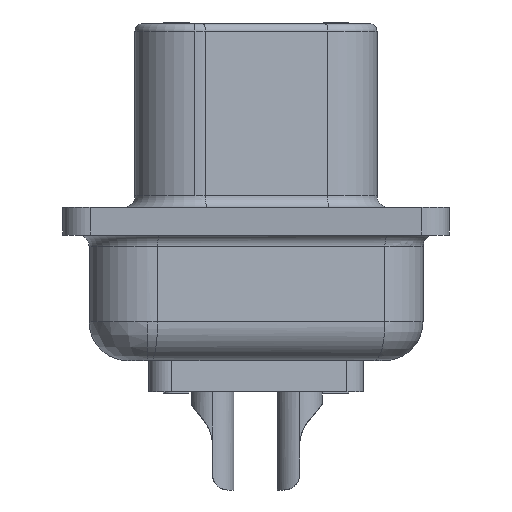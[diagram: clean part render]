
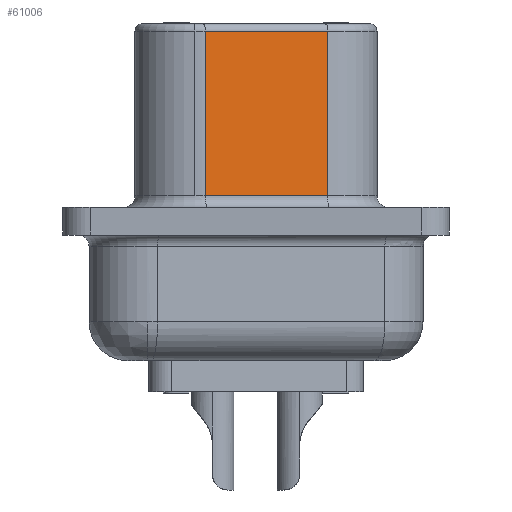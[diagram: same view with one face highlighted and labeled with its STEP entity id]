
A CAD part, left-side view. The second image highlights one B-rep face of the part: STEP entity #61006.
In plain terms, the highlighted planar face has unit normal (-0.985, -0.174, 0).
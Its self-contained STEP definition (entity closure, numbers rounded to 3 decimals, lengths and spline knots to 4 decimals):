
#7222 = VERTEX_POINT('',#7223);
#7223 = CARTESIAN_POINT('',(7.25,7.9546,5.746));
#7238 = CYLINDRICAL_SURFACE('',#7239,1.9558);
#7239 = AXIS2_PLACEMENT_3D('',#7240,#7241,#7242);
#7240 = CARTESIAN_POINT('',(9.1761,8.2942,6.));
#7241 = DIRECTION('',(-0.,-0.,-1.));
#7242 = DIRECTION('',(-1.,0.,0.));
#7265 = CYLINDRICAL_SURFACE('',#7266,0.254);
#7266 = AXIS2_PLACEMENT_3D('',#7267,#7268,#7269);
#7267 = CARTESIAN_POINT('',(8.2034,4.0103,5.746));
#7268 = DIRECTION('',(0.174,-0.985,0.));
#7269 = DIRECTION('',(0.985,0.174,0.));
#7426 = VERTEX_POINT('',#7427);
#7427 = CARTESIAN_POINT('',(7.25,7.9546,0.381));
#7454 = EDGE_CURVE('',#7222,#7426,#7455,.T.);
#7455 = SURFACE_CURVE('',#7456,(#7460,#7467),.PCURVE_S1.);
#7456 = LINE('',#7457,#7458);
#7457 = CARTESIAN_POINT('',(7.25,7.9546,6.));
#7458 = VECTOR('',#7459,1.);
#7459 = DIRECTION('',(-0.,-0.,-1.));
#7460 = PCURVE('',#7238,#7461);
#7461 = DEFINITIONAL_REPRESENTATION('',(#7462),#7466);
#7462 = LINE('',#7463,#7464);
#7463 = CARTESIAN_POINT('',(6.109,0.));
#7464 = VECTOR('',#7465,1.);
#7465 = DIRECTION('',(0.,1.));
#7466 = ( GEOMETRIC_REPRESENTATION_CONTEXT(2) 
PARAMETRIC_REPRESENTATION_CONTEXT() REPRESENTATION_CONTEXT('2D SPACE',''
  ) );
#7467 = PCURVE('',#7468,#7473);
#7468 = PLANE('',#7469);
#7469 = AXIS2_PLACEMENT_3D('',#7470,#7471,#7472);
#7470 = CARTESIAN_POINT('',(7.9533,3.9662,6.));
#7471 = DIRECTION('',(0.985,0.174,-0.));
#7472 = DIRECTION('',(-0.174,0.985,0.));
#7473 = DEFINITIONAL_REPRESENTATION('',(#7474),#7478);
#7474 = LINE('',#7475,#7476);
#7475 = CARTESIAN_POINT('',(4.05,0.));
#7476 = VECTOR('',#7477,1.);
#7477 = DIRECTION('',(0.,-1.));
#7478 = ( GEOMETRIC_REPRESENTATION_CONTEXT(2) 
PARAMETRIC_REPRESENTATION_CONTEXT() REPRESENTATION_CONTEXT('2D SPACE',''
  ) );
#59506 = CYLINDRICAL_SURFACE('',#59507,0.381);
#59507 = AXIS2_PLACEMENT_3D('',#59508,#59509,#59510);
#59508 = CARTESIAN_POINT('',(7.5781,3.9,0.381));
#59509 = DIRECTION('',(0.174,-0.985,0.));
#59510 = DIRECTION('',(0.985,0.174,0.));
#60481 = EDGE_CURVE('',#60482,#60484,#60486,.T.);
#60482 = VERTEX_POINT('',#60483);
#60483 = CARTESIAN_POINT('',(7.9533,3.9662,5.746));
#60484 = VERTEX_POINT('',#60485);
#60485 = CARTESIAN_POINT('',(7.9533,3.9662,0.381));
#60486 = SURFACE_CURVE('',#60487,(#60491,#60503),.PCURVE_S1.);
#60487 = LINE('',#60488,#60489);
#60488 = CARTESIAN_POINT('',(7.9533,3.9662,6.));
#60489 = VECTOR('',#60490,1.);
#60490 = DIRECTION('',(-0.,-0.,-1.));
#60491 = PCURVE('',#60492,#60497);
#60492 = CYLINDRICAL_SURFACE('',#60493,1.9558);
#60493 = AXIS2_PLACEMENT_3D('',#60494,#60495,#60496);
#60494 = CARTESIAN_POINT('',(9.8793,4.3058,6.));
#60495 = DIRECTION('',(-0.,-0.,-1.));
#60496 = DIRECTION('',(-1.,0.,0.));
#60497 = DEFINITIONAL_REPRESENTATION('',(#60498),#60502);
#60498 = LINE('',#60499,#60500);
#60499 = CARTESIAN_POINT('',(6.109,0.));
#60500 = VECTOR('',#60501,1.);
#60501 = DIRECTION('',(0.,1.));
#60502 = ( GEOMETRIC_REPRESENTATION_CONTEXT(2) 
PARAMETRIC_REPRESENTATION_CONTEXT() REPRESENTATION_CONTEXT('2D SPACE',''
  ) );
#60503 = PCURVE('',#7468,#60504);
#60504 = DEFINITIONAL_REPRESENTATION('',(#60505),#60509);
#60505 = LINE('',#60506,#60507);
#60506 = CARTESIAN_POINT('',(0.,0.));
#60507 = VECTOR('',#60508,1.);
#60508 = DIRECTION('',(0.,-1.));
#60509 = ( GEOMETRIC_REPRESENTATION_CONTEXT(2) 
PARAMETRIC_REPRESENTATION_CONTEXT() REPRESENTATION_CONTEXT('2D SPACE',''
  ) );
#61006 = ADVANCED_FACE('',(#61007),#7468,.F.);
#61007 = FACE_BOUND('',#61008,.T.);
#61008 = EDGE_LOOP('',(#61009,#61010,#61031,#61032));
#61009 = ORIENTED_EDGE('',*,*,#7454,.T.);
#61010 = ORIENTED_EDGE('',*,*,#61011,.T.);
#61011 = EDGE_CURVE('',#7426,#60484,#61012,.T.);
#61012 = SURFACE_CURVE('',#61013,(#61017,#61024),.PCURVE_S1.);
#61013 = LINE('',#61014,#61015);
#61014 = CARTESIAN_POINT('',(7.9533,3.9662,0.381));
#61015 = VECTOR('',#61016,1.);
#61016 = DIRECTION('',(0.174,-0.985,0.));
#61017 = PCURVE('',#7468,#61018);
#61018 = DEFINITIONAL_REPRESENTATION('',(#61019),#61023);
#61019 = LINE('',#61020,#61021);
#61020 = CARTESIAN_POINT('',(0.,-5.619));
#61021 = VECTOR('',#61022,1.);
#61022 = DIRECTION('',(-1.,0.));
#61023 = ( GEOMETRIC_REPRESENTATION_CONTEXT(2) 
PARAMETRIC_REPRESENTATION_CONTEXT() REPRESENTATION_CONTEXT('2D SPACE',''
  ) );
#61024 = PCURVE('',#59506,#61025);
#61025 = DEFINITIONAL_REPRESENTATION('',(#61026),#61030);
#61026 = LINE('',#61027,#61028);
#61027 = CARTESIAN_POINT('',(6.283,0.));
#61028 = VECTOR('',#61029,1.);
#61029 = DIRECTION('',(0.,1.));
#61030 = ( GEOMETRIC_REPRESENTATION_CONTEXT(2) 
PARAMETRIC_REPRESENTATION_CONTEXT() REPRESENTATION_CONTEXT('2D SPACE',''
  ) );
#61031 = ORIENTED_EDGE('',*,*,#60481,.F.);
#61032 = ORIENTED_EDGE('',*,*,#61033,.T.);
#61033 = EDGE_CURVE('',#60482,#7222,#61034,.T.);
#61034 = SURFACE_CURVE('',#61035,(#61039,#61046),.PCURVE_S1.);
#61035 = LINE('',#61036,#61037);
#61036 = CARTESIAN_POINT('',(7.9533,3.9662,5.746));
#61037 = VECTOR('',#61038,1.);
#61038 = DIRECTION('',(-0.174,0.985,-0.));
#61039 = PCURVE('',#7468,#61040);
#61040 = DEFINITIONAL_REPRESENTATION('',(#61041),#61045);
#61041 = LINE('',#61042,#61043);
#61042 = CARTESIAN_POINT('',(0.,-0.254));
#61043 = VECTOR('',#61044,1.);
#61044 = DIRECTION('',(1.,0.));
#61045 = ( GEOMETRIC_REPRESENTATION_CONTEXT(2) 
PARAMETRIC_REPRESENTATION_CONTEXT() REPRESENTATION_CONTEXT('2D SPACE',''
  ) );
#61046 = PCURVE('',#7265,#61047);
#61047 = DEFINITIONAL_REPRESENTATION('',(#61048),#61052);
#61048 = LINE('',#61049,#61050);
#61049 = CARTESIAN_POINT('',(3.142,0.));
#61050 = VECTOR('',#61051,1.);
#61051 = DIRECTION('',(0.,-1.));
#61052 = ( GEOMETRIC_REPRESENTATION_CONTEXT(2) 
PARAMETRIC_REPRESENTATION_CONTEXT() REPRESENTATION_CONTEXT('2D SPACE',''
  ) );
